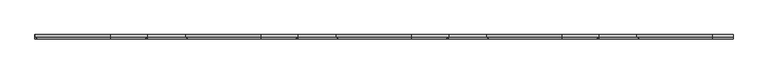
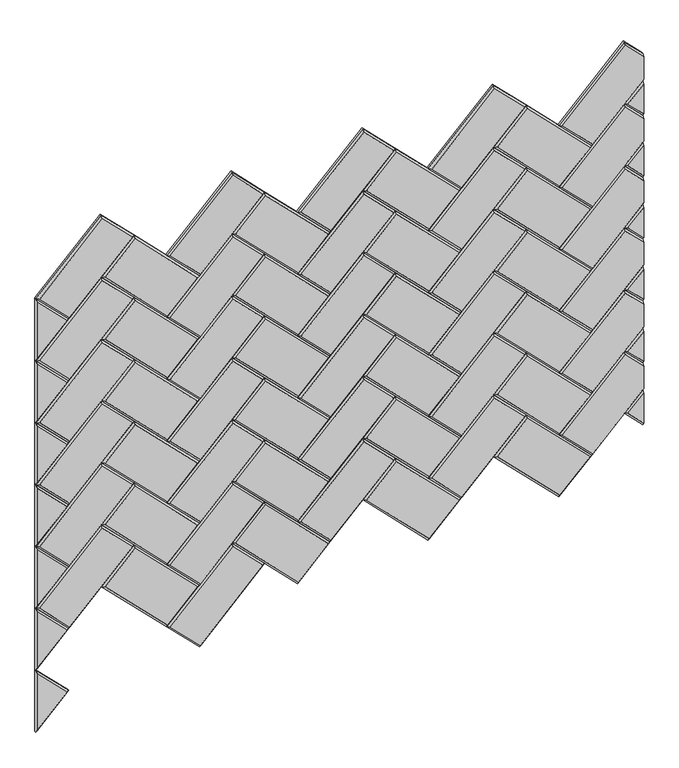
"""IFC4 building model written with IfcOpenShell, lengths in millimetres: proxy geometry, Wall_Wisteria 6.3dm."""

import ifcopenshell
import ifcopenshell.guid

model = None  # the IFC model being written
_history = None  # IfcOwnerHistory: only IFC2X3 demands one
_inside = {}  # id of a spatial element -> (the spatial element, [elements in it])
_under = {}  # id of a project, library or spatial element -> (it, [spatial elements below it])
_declared = {}  # id of a project -> (the project, [libraries it declares])
_typed = {}  # id of a type object -> (the type object, [elements of that type])
_made_of = {}  # id of a material, layer set ... -> (it, [elements and type objects made of it])


def new_model(schema):
    """Start an empty IFC model of exactly this schema.

    Asked for "IFC4X3", IfcOpenShell would pick the latest addendum, in which some entities
    have other attributes; the version numbers below select the first issue.
    IFC2X3 requires an IfcOwnerHistory on every rooted entity: one is made here for all.
    """
    global model, _history
    if schema == "IFC4X3":
        model = ifcopenshell.file(schema_version=(4, 3, 0, 0))
    else:
        model = ifcopenshell.file(schema=schema)
    _inside.clear()
    _under.clear()
    _declared.clear()
    _typed.clear()
    _made_of.clear()
    _history = None
    if model.schema == "IFC2X3":
        org = make("IfcOrganization", Name="unknown")
        user = make(
            "IfcPersonAndOrganization",
            ThePerson=make("IfcPerson", FamilyName="unknown"),
            TheOrganization=org,
        )
        app = make(
            "IfcApplication",
            ApplicationDeveloper=org,
            Version="unknown",
            ApplicationFullName="unknown",
            ApplicationIdentifier="unknown",
        )
        _history = make(
            "IfcOwnerHistory",
            OwningUser=user,
            OwningApplication=app,
            ChangeAction="ADDED",
            CreationDate=0,
        )
    return model


def make(cls, **values):
    """One entity of the class cls with the attributes given. An attribute that is None is left unset."""
    return model.create_entity(
        cls, **{name: value for name, value in values.items() if value is not None}
    )


def rooted(cls, **values):
    """An entity with a GlobalId (a new one), such as an element, a storey or a relation."""
    return make(cls, GlobalId=ifcopenshell.guid.new(), OwnerHistory=_history, **values)


def si_unit(unit_type, name, prefix=None):
    """IfcSIUnit, for example si_unit("LENGTHUNIT", "METRE", prefix="MILLI")."""
    return make("IfcSIUnit", UnitType=unit_type, Prefix=prefix, Name=name)


def assignment(units):
    """IfcUnitAssignment: the units of a project."""
    return None if units is None else make("IfcUnitAssignment", Units=units)


def point(xyz):
    """IfcCartesianPoint."""
    return None if xyz is None else make("IfcCartesianPoint", Coordinates=xyz)


def direction(xyz):
    """IfcDirection."""
    return None if xyz is None else make("IfcDirection", DirectionRatios=xyz)


def frame(location, z_axis=None, x_axis=None):
    """IfcAxis2Placement3D, a coordinate frame: its origin and axes. An axis left out is left unset."""
    return make(
        "IfcAxis2Placement3D",
        Location=point(location),
        Axis=direction(z_axis),
        RefDirection=direction(x_axis),
    )


def origin():
    """The frame at (0, 0, 0) with its axes left unset."""
    return frame((0.0, 0.0, 0.0))


def place(relative_to, where):
    """IfcLocalPlacement: puts the frame where relative to a parent placement (None: the world)."""
    return make(
        "IfcLocalPlacement", PlacementRelTo=relative_to, RelativePlacement=where
    )


def context(
    kind, dimensions, precision=None, world=None, true_north=None, identifier=None
):
    """IfcGeometricRepresentationContext, for example the 3D "Model" context."""
    return make(
        "IfcGeometricRepresentationContext",
        ContextIdentifier=identifier,
        ContextType=kind,
        CoordinateSpaceDimension=dimensions,
        Precision=precision,
        WorldCoordinateSystem=world,
        TrueNorth=true_north,
    )


def project(units=None, contexts=None):
    """IfcProject with its units and contexts."""
    return rooted(
        "IfcProject",
        Name="project",
        RepresentationContexts=contexts,
        UnitsInContext=assignment(units),
    )


def spatial(cls, under=None, at=None, **own):
    """A site, building, storey or space (cls), placed at a placement, below another one or the project."""
    s = rooted(cls, ObjectPlacement=at, **own)
    if under is not None:
        _under.setdefault(under.id(), (under, []))[1].append(s)
    return s


def faces_of(points, faces, orient=None, outer=None):
    """IfcFace entities. A face is a list of loops; a loop is a list of indices into points, from 0.

    orient and outer hold one flag for each loop. By default every Orientation is true, the
    first loop of a face is its IfcFaceOuterBound and the others are IfcFaceBound.
    """
    made = []
    for i, loops in enumerate(faces):
        bounds = []
        for j, loop in enumerate(loops):
            is_outer = j == 0 if outer is None else outer[i][j]
            bounds.append(
                make(
                    "IfcFaceOuterBound" if is_outer else "IfcFaceBound",
                    Bound=make("IfcPolyLoop", Polygon=[points[k] for k in loop]),
                    Orientation=True if orient is None else orient[i][j],
                )
            )
        made.append(make("IfcFace", Bounds=bounds))
    return made


def faceted_brep(points, faces, orient=None, outer=None, voids=None):
    """IfcFacetedBrep: a solid bounded by flat faces; with voids (closed shells), ...WithVoids."""
    shared = [point(p) for p in points]
    hull = make("IfcClosedShell", CfsFaces=faces_of(shared, faces, orient, outer))
    if voids is None:
        return make("IfcFacetedBrep", Outer=hull)
    return make(
        "IfcFacetedBrepWithVoids",
        Outer=hull,
        Voids=[
            make(cls, CfsFaces=faces_of(shared, fs, o, b)) for cls, fs, o, b in voids
        ],
    )


def shape(context_of_items, identifier, shape_type, items):
    """IfcShapeRepresentation: the items that make up one representation, for example the "Body"."""
    return make(
        "IfcShapeRepresentation",
        ContextOfItems=context_of_items,
        RepresentationIdentifier=identifier,
        RepresentationType=shape_type,
        Items=items,
    )


def source(mapping_origin, context_of_items, identifier, shape_type, items):
    """IfcRepresentationMap: a shape defined once, which mapped items show again and again."""
    return make(
        "IfcRepresentationMap",
        MappingOrigin=mapping_origin,
        MappedRepresentation=shape(context_of_items, identifier, shape_type, items),
    )


def transform(
    local_origin,
    x_axis=None,
    y_axis=None,
    z_axis=None,
    scale=None,
    scale2=None,
    scale3=None,
    uniform=True,
):
    """IfcCartesianTransformationOperator3D, or its non-uniform kind. x_axis, y_axis, z_axis: its Axis1, 2, 3."""
    if uniform:
        return make(
            "IfcCartesianTransformationOperator3D",
            Axis1=direction(x_axis),
            Axis2=direction(y_axis),
            LocalOrigin=point(local_origin),
            Scale=scale,
            Axis3=direction(z_axis),
        )
    return make(
        "IfcCartesianTransformationOperator3DnonUniform",
        Axis1=direction(x_axis),
        Axis2=direction(y_axis),
        LocalOrigin=point(local_origin),
        Scale=scale,
        Axis3=direction(z_axis),
        Scale2=scale2,
        Scale3=scale3,
    )


def mapped(mapping_source, mapping_target):
    """IfcMappedItem: shows the shape of a source again, moved by a transform."""
    return make(
        "IfcMappedItem", MappingSource=mapping_source, MappingTarget=mapping_target
    )


def made_of(thing, what):
    """Note that an element or type object is made of a material, layer set ...; save() writes the relation."""
    if what is not None:
        _made_of.setdefault(what.id(), (what, []))[1].append(thing)
    return thing


def element(
    cls,
    number,
    at=None,
    inside=None,
    cuts=None,
    type_object=None,
    material=None,
    context=None,
    identifier="Body",
    shape_type=None,
    held_by="IfcProductDefinitionShape",
    body=None,
    shapes=None,
    **own,
):
    """One element of the class cls, such as IfcWall. Its Tag is "e" and its number.

    at: its placement. inside: the storey or other place that contains it. cuts: it is an
    opening in that element (IfcRelVoidsElement). A single representation is given by context,
    identifier, shape_type and body (its items); several are given by shapes. held_by: the class
    of the entity that holds the representations. save() writes the other relations.
    """
    e = rooted(cls, Tag="e%d" % number, ObjectPlacement=at, **own)
    if body is not None:
        shapes = [shape(context, identifier, shape_type, body)]
    if shapes is not None:
        e.Representation = make(held_by, Representations=shapes)
    if inside is not None:
        _inside.setdefault(inside.id(), (inside, []))[1].append(e)
    if cuts is not None:
        rooted(
            "IfcRelVoidsElement", RelatingBuildingElement=cuts, RelatedOpeningElement=e
        )
    if type_object is not None:
        _typed.setdefault(type_object.id(), (type_object, []))[1].append(e)
    return made_of(e, material)


def aggregate(whole, parts):
    """IfcRelAggregates: a whole, such as a stair, and the parts it consists of."""
    return rooted("IfcRelAggregates", RelatingObject=whole, RelatedObjects=parts)


def save(model, path):
    """Write the relations noted so far, then the file.

    IfcRelAggregates (storeys below a building ...), IfcRelContainedInSpatialStructure (elements
    in a storey), IfcRelDefinesByType, IfcRelAssociatesMaterial and IfcRelDeclares: one each for
    every whole, place, type object, material and project.
    """
    for whole, parts in _under.values():
        aggregate(whole, parts)
    for where, things in _inside.values():
        rooted(
            "IfcRelContainedInSpatialStructure",
            RelatedElements=things,
            RelatingStructure=where,
        )
    for kind, things in _typed.values():
        rooted("IfcRelDefinesByType", RelatedObjects=things, RelatingType=kind)
    for what, things in _made_of.values():
        rooted("IfcRelAssociatesMaterial", RelatedObjects=things, RelatingMaterial=what)
    for by, libraries in _declared.values():
        rooted("IfcRelDeclares", RelatingContext=by, RelatedDefinitions=libraries)
    model.write(path)


def generic_models_5b903db9(model_context):
    return source(origin(), model_context, "Body", "Brep", [
        faceted_brep([(7516.5511183, 12.0, 1287.5409819), (7301.0249714, 12.0, 1072.014835), (7193.261898, 12.0, 1179.7779084), (7408.7880449, 12.0, 1395.3040553), (7516.5511183, 6.0, 1287.5409819), (7408.7880449, 6.0, 1395.3040553), (7193.261898, 6.0, 1179.7779084), (7301.0249714, 6.0, 1072.014835), (7201.7471794, 0.0, 1179.7779084), (7301.0249714, 0.0, 1080.5001163), (7508.065837, 0.0, 1287.5409819), (7408.7880449, 0.0, 1386.818774)], [[[0, 1, 2, 3]], [[4, 0, 3, 5]], [[5, 3, 2, 6]], [[6, 2, 1, 7]], [[7, 1, 0, 4]], [[8, 9, 10, 11]], [[4, 5, 11, 10]], [[5, 6, 8, 11]], [[6, 7, 9, 8]], [[7, 4, 10, 9]]]),
        faceted_brep([(6762.2096042, 12.0, 1179.7779084), (6869.9726776, 12.0, 1072.014835), (6762.2096042, 12.0, 964.2517615), (6762.2096042, 6.0, 964.2517615), (6869.9726776, 6.0, 1072.014835), (6762.2096042, 6.0, 1179.7779084), (6762.2096042, 0.0, 1171.2926271), (6762.2096042, 0.0, 972.7370429), (6861.4873962, 0.0, 1072.014835)], [[[0, 1, 2]], [[3, 2, 1, 4]], [[0, 5, 4, 1]], [[6, 7, 8]], [[3, 4, 8, 7]], [[5, 6, 8, 4]], [[0, 2, 3, 7, 6, 5]]]),
        faceted_brep([(8378.655706, 12.0, 1503.0671288), (8163.1295591, 12.0, 1287.5409819), (8055.3664856, 12.0, 1395.3040553), (8270.8926325, 12.0, 1610.8302022), (8378.655706, 6.0, 1503.0671288), (8270.8926325, 6.0, 1610.8302022), (8055.3664856, 6.0, 1395.3040553), (8163.1295591, 6.0, 1287.5409819), (8063.851767, 0.0, 1395.3040553), (8163.1295591, 0.0, 1296.0262633), (8370.1704246, 0.0, 1503.0671288), (8270.8926325, 0.0, 1602.3449209)], [[[0, 1, 2, 3]], [[4, 0, 3, 5]], [[5, 3, 2, 6]], [[6, 2, 1, 7]], [[7, 1, 0, 4]], [[8, 9, 10, 11]], [[4, 5, 11, 10]], [[5, 6, 8, 11]], [[6, 7, 9, 8]], [[7, 4, 10, 9]]]),
        faceted_brep([(8486.4187794, 12.0, 1395.3040553), (8270.8926325, 12.0, 1610.8302022), (8378.655706, 12.0, 1718.5932757), (8594.1818529, 12.0, 1503.0671288), (8486.4187794, 6.0, 1395.3040553), (8594.1818529, 6.0, 1503.0671288), (8378.655706, 6.0, 1718.5932757), (8270.8926325, 6.0, 1610.8302022), (8378.655706, 0.0, 1710.1079943), (8279.3779139, 0.0, 1610.8302022), (8486.4187794, 0.0, 1403.7893367), (8585.6965715, 0.0, 1503.0671288)], [[[0, 1, 2, 3]], [[4, 0, 3, 5]], [[5, 3, 2, 6]], [[6, 2, 1, 7]], [[7, 1, 0, 4]], [[8, 9, 10, 11]], [[4, 5, 11, 10]], [[5, 6, 8, 11]], [[6, 7, 9, 8]], [[7, 4, 10, 9]]]),
        faceted_brep([(8762.2096042, 12.0, 1671.0948801), (8594.1818529, 12.0, 1503.0671288), (8486.4187794, 12.0, 1610.8302022), (8701.9449263, 12.0, 1826.3563491), (8762.2096042, 12.0, 1766.0916713), (8762.2096042, 6.0, 1766.0916713), (8701.9449263, 6.0, 1826.3563491), (8486.4187794, 6.0, 1610.8302022), (8594.1818529, 6.0, 1503.0671288), (8762.2096042, 6.0, 1671.0948801), (8762.2096042, 0.0, 1679.5801615), (8762.2096042, 0.0, 1757.6063899), (8701.9449263, 0.0, 1817.8710678), (8494.9040608, 0.0, 1610.8302022), (8594.1818529, 0.0, 1511.5524102)], [[[0, 1, 2, 3, 4]], [[5, 4, 3, 6]], [[6, 3, 2, 7]], [[7, 2, 1, 8]], [[0, 9, 8, 1]], [[10, 11, 12, 13, 14]], [[11, 5, 6, 12]], [[6, 7, 13, 12]], [[7, 8, 14, 13]], [[9, 10, 14, 8]], [[0, 4, 5, 11, 10, 9]]]),
        faceted_brep([(8762.2096042, 12.0, 1886.621027), (8594.1818529, 12.0, 1718.5932757), (8486.4187794, 12.0, 1826.3563491), (8701.9449263, 12.0, 2041.882496), (8762.2096042, 12.0, 1981.6178182), (8762.2096042, 6.0, 1981.6178182), (8701.9449263, 6.0, 2041.882496), (8486.4187794, 6.0, 1826.3563491), (8594.1818529, 6.0, 1718.5932757), (8762.2096042, 6.0, 1886.621027), (8762.2096042, 0.0, 1895.1063084), (8762.2096042, 0.0, 1973.1325368), (8701.9449263, 0.0, 2033.3972147), (8494.9040608, 0.0, 1826.3563491), (8594.1818529, 0.0, 1727.0785571)], [[[0, 1, 2, 3, 4]], [[5, 4, 3, 6]], [[6, 3, 2, 7]], [[7, 2, 1, 8]], [[0, 9, 8, 1]], [[10, 11, 12, 13, 14]], [[11, 5, 6, 12]], [[6, 7, 13, 12]], [[7, 8, 14, 13]], [[9, 10, 14, 8]], [[0, 4, 5, 11, 10, 9]]]),
        faceted_brep([(8486.4187794, 12.0, 1179.7779084), (8270.8926325, 12.0, 1395.3040553), (8378.655706, 12.0, 1503.0671288), (8594.1818529, 12.0, 1287.5409819), (8486.4187794, 6.0, 1179.7779084), (8594.1818529, 6.0, 1287.5409819), (8378.655706, 6.0, 1503.0671288), (8270.8926325, 6.0, 1395.3040553), (8378.655706, 0.0, 1494.5818474), (8279.3779139, 0.0, 1395.3040553), (8486.4187794, 0.0, 1188.2631898), (8585.6965715, 0.0, 1287.5409819)], [[[0, 1, 2, 3]], [[4, 0, 3, 5]], [[5, 3, 2, 6]], [[6, 2, 1, 7]], [[7, 1, 0, 4]], [[8, 9, 10, 11]], [[4, 5, 11, 10]], [[5, 6, 8, 11]], [[6, 7, 9, 8]], [[7, 4, 10, 9]]]),
        faceted_brep([(8762.2096042, 12.0, 1335.0393775), (8701.9449263, 12.0, 1395.3040553), (8762.2096042, 12.0, 1455.5687332), (8762.2096042, 6.0, 1455.5687332), (8701.9449263, 6.0, 1395.3040553), (8762.2096042, 6.0, 1335.0393775), (8762.2096042, 0.0, 1343.5246589), (8762.2096042, 0.0, 1447.0834518), (8710.4302077, 0.0, 1395.3040553)], [[[0, 1, 2]], [[3, 2, 1, 4]], [[0, 5, 4, 1]], [[6, 7, 8]], [[7, 3, 4, 8]], [[5, 6, 8, 4]], [[0, 2, 3, 7, 6, 5]]]),
        faceted_brep([(8762.2096042, 12.0, 1455.5687332), (8594.1818529, 12.0, 1287.5409819), (8486.4187794, 12.0, 1395.3040553), (8701.9449263, 12.0, 1610.8302022), (8762.2096042, 12.0, 1550.5655244), (8762.2096042, 6.0, 1550.5655244), (8701.9449263, 6.0, 1610.8302022), (8486.4187794, 6.0, 1395.3040553), (8594.1818529, 6.0, 1287.5409819), (8762.2096042, 6.0, 1455.5687332), (8762.2096042, 0.0, 1464.0540146), (8762.2096042, 0.0, 1542.080243), (8701.9449263, 0.0, 1602.3449209), (8494.9040608, 0.0, 1395.3040553), (8594.1818529, 0.0, 1296.0262633)], [[[0, 1, 2, 3, 4]], [[5, 4, 3, 6]], [[6, 3, 2, 7]], [[7, 2, 1, 8]], [[0, 9, 8, 1]], [[10, 11, 12, 13, 14]], [[11, 5, 6, 12]], [[6, 7, 13, 12]], [[7, 8, 14, 13]], [[9, 10, 14, 8]], [[0, 4, 5, 11, 10, 9]]]),
        faceted_brep([(8762.2096042, 12.0, 1550.5655244), (8701.9449263, 12.0, 1610.8302022), (8762.2096042, 12.0, 1671.0948801), (8762.2096042, 6.0, 1671.0948801), (8701.9449263, 6.0, 1610.8302022), (8762.2096042, 6.0, 1550.5655244), (8762.2096042, 0.0, 1559.0508058), (8762.2096042, 0.0, 1662.6095987), (8710.4302077, 0.0, 1610.8302022)], [[[0, 1, 2]], [[3, 2, 1, 4]], [[0, 5, 4, 1]], [[6, 7, 8]], [[7, 3, 4, 8]], [[5, 6, 8, 4]], [[0, 2, 3, 7, 6, 5]]]),
        faceted_brep([(8762.2096042, 12.0, 1766.0916713), (8701.9449263, 12.0, 1826.3563491), (8762.2096042, 12.0, 1886.621027), (8762.2096042, 6.0, 1886.621027), (8701.9449263, 6.0, 1826.3563491), (8762.2096042, 6.0, 1766.0916713), (8762.2096042, 0.0, 1774.5769527), (8762.2096042, 0.0, 1878.1357456), (8710.4302077, 0.0, 1826.3563491)], [[[0, 1, 2]], [[3, 2, 1, 4]], [[0, 5, 4, 1]], [[6, 7, 8]], [[7, 3, 4, 8]], [[5, 6, 8, 4]], [[0, 2, 3, 7, 6, 5]]]),
        faceted_brep([(7624.3141918, 12.0, 1179.7779084), (7408.7880449, 12.0, 1395.3040553), (7516.5511183, 12.0, 1503.0671288), (7732.0772652, 12.0, 1287.5409819), (7624.3141918, 6.0, 1179.7779084), (7732.0772652, 6.0, 1287.5409819), (7516.5511183, 6.0, 1503.0671288), (7408.7880449, 6.0, 1395.3040553), (7516.5511183, 0.0, 1494.5818474), (7417.2733263, 0.0, 1395.3040553), (7624.3141918, 0.0, 1188.2631898), (7723.5919839, 0.0, 1287.5409819)], [[[0, 1, 2, 3]], [[4, 0, 3, 5]], [[5, 3, 2, 6]], [[6, 2, 1, 7]], [[7, 1, 0, 4]], [[8, 9, 10, 11]], [[4, 5, 11, 10]], [[5, 6, 8, 11]], [[6, 7, 9, 8]], [[7, 4, 10, 9]]]),
        faceted_brep([(7516.5511183, 12.0, 1503.0671288), (7301.0249714, 12.0, 1287.5409819), (7193.261898, 12.0, 1395.3040553), (7408.7880449, 12.0, 1610.8302022), (7516.5511183, 6.0, 1503.0671288), (7408.7880449, 6.0, 1610.8302022), (7193.261898, 6.0, 1395.3040553), (7301.0249714, 6.0, 1287.5409819), (7201.7471794, 0.0, 1395.3040553), (7301.0249714, 0.0, 1296.0262633), (7508.065837, 0.0, 1503.0671288), (7408.7880449, 0.0, 1602.3449209)], [[[0, 1, 2, 3]], [[4, 0, 3, 5]], [[5, 3, 2, 6]], [[6, 2, 1, 7]], [[7, 1, 0, 4]], [[8, 9, 10, 11]], [[4, 5, 11, 10]], [[5, 6, 8, 11]], [[6, 7, 9, 8]], [[7, 4, 10, 9]]]),
        faceted_brep([(8055.3664856, 12.0, 1179.7779084), (7839.8403387, 12.0, 1395.3040553), (7947.6034122, 12.0, 1503.0671288), (8163.1295591, 12.0, 1287.5409819), (8055.3664856, 6.0, 1179.7779084), (8163.1295591, 6.0, 1287.5409819), (7947.6034122, 6.0, 1503.0671288), (7839.8403387, 6.0, 1395.3040553), (7947.6034122, 0.0, 1494.5818474), (7848.3256201, 0.0, 1395.3040553), (8055.3664856, 0.0, 1188.2631898), (8154.6442777, 0.0, 1287.5409819)], [[[0, 1, 2, 3]], [[4, 0, 3, 5]], [[5, 3, 2, 6]], [[6, 2, 1, 7]], [[7, 1, 0, 4]], [[8, 9, 10, 11]], [[4, 5, 11, 10]], [[5, 6, 8, 11]], [[6, 7, 9, 8]], [[7, 4, 10, 9]]]),
        faceted_brep([(7947.6034122, 12.0, 1503.0671288), (7732.0772652, 12.0, 1287.5409819), (7624.3141918, 12.0, 1395.3040553), (7839.8403387, 12.0, 1610.8302022), (7947.6034122, 6.0, 1503.0671288), (7839.8403387, 6.0, 1610.8302022), (7624.3141918, 6.0, 1395.3040553), (7732.0772652, 6.0, 1287.5409819), (7632.7994732, 0.0, 1395.3040553), (7732.0772652, 0.0, 1296.0262633), (7939.1181308, 0.0, 1503.0671288), (7839.8403387, 0.0, 1602.3449209)], [[[0, 1, 2, 3]], [[4, 0, 3, 5]], [[5, 3, 2, 6]], [[6, 2, 1, 7]], [[7, 1, 0, 4]], [[8, 9, 10, 11]], [[4, 5, 11, 10]], [[5, 6, 8, 11]], [[6, 7, 9, 8]], [[7, 4, 10, 9]]]),
        faceted_brep([(7624.3141918, 12.0, 1395.3040553), (7408.7880449, 12.0, 1610.8302022), (7516.5511183, 12.0, 1718.5932757), (7732.0772652, 12.0, 1503.0671288), (7624.3141918, 6.0, 1395.3040553), (7732.0772652, 6.0, 1503.0671288), (7516.5511183, 6.0, 1718.5932757), (7408.7880449, 6.0, 1610.8302022), (7516.5511183, 0.0, 1710.1079943), (7417.2733263, 0.0, 1610.8302022), (7624.3141918, 0.0, 1403.7893367), (7723.5919839, 0.0, 1503.0671288)], [[[0, 1, 2, 3]], [[4, 0, 3, 5]], [[5, 3, 2, 6]], [[6, 2, 1, 7]], [[7, 1, 0, 4]], [[8, 9, 10, 11]], [[4, 5, 11, 10]], [[5, 6, 8, 11]], [[6, 7, 9, 8]], [[7, 4, 10, 9]]]),
        faceted_brep([(8055.3664856, 12.0, 1395.3040553), (7839.8403387, 12.0, 1610.8302022), (7947.6034122, 12.0, 1718.5932757), (8163.1295591, 12.0, 1503.0671288), (8055.3664856, 6.0, 1395.3040553), (8163.1295591, 6.0, 1503.0671288), (7947.6034122, 6.0, 1718.5932757), (7839.8403387, 6.0, 1610.8302022), (7947.6034122, 0.0, 1710.1079943), (7848.3256201, 0.0, 1610.8302022), (8055.3664856, 0.0, 1403.7893367), (8154.6442777, 0.0, 1503.0671288)], [[[0, 1, 2, 3]], [[4, 0, 3, 5]], [[5, 3, 2, 6]], [[6, 2, 1, 7]], [[7, 1, 0, 4]], [[8, 9, 10, 11]], [[4, 5, 11, 10]], [[5, 6, 8, 11]], [[6, 7, 9, 8]], [[7, 4, 10, 9]]]),
        faceted_brep([(7947.6034122, 12.0, 1718.5932757), (7732.0772652, 12.0, 1503.0671288), (7624.3141918, 12.0, 1610.8302022), (7839.8403387, 12.0, 1826.3563491), (7947.6034122, 6.0, 1718.5932757), (7839.8403387, 6.0, 1826.3563491), (7624.3141918, 6.0, 1610.8302022), (7732.0772652, 6.0, 1503.0671288), (7632.7994732, 0.0, 1610.8302022), (7732.0772652, 0.0, 1511.5524102), (7939.1181308, 0.0, 1718.5932757), (7839.8403387, 0.0, 1817.8710678)], [[[0, 1, 2, 3]], [[4, 0, 3, 5]], [[5, 3, 2, 6]], [[6, 2, 1, 7]], [[7, 1, 0, 4]], [[8, 9, 10, 11]], [[4, 5, 11, 10]], [[5, 6, 8, 11]], [[6, 7, 9, 8]], [[7, 4, 10, 9]]]),
        faceted_brep([(7947.6034122, 12.0, 1934.1194226), (7732.0772652, 12.0, 1718.5932757), (7624.3141918, 12.0, 1826.3563491), (7839.8403387, 12.0, 2041.882496), (7947.6034122, 6.0, 1934.1194226), (7839.8403387, 6.0, 2041.882496), (7624.3141918, 6.0, 1826.3563491), (7732.0772652, 6.0, 1718.5932757), (7632.7994732, 0.0, 1826.3563491), (7732.0772652, 0.0, 1727.0785571), (7939.1181308, 0.0, 1934.1194226), (7839.8403387, 0.0, 2033.3972147)], [[[0, 1, 2, 3]], [[4, 0, 3, 5]], [[5, 3, 2, 6]], [[6, 2, 1, 7]], [[7, 1, 0, 4]], [[8, 9, 10, 11]], [[4, 5, 11, 10]], [[5, 6, 8, 11]], [[6, 7, 9, 8]], [[7, 4, 10, 9]]]),
        faceted_brep([(8378.655706, 12.0, 1718.5932757), (8163.1295591, 12.0, 1503.0671288), (8055.3664856, 12.0, 1610.8302022), (8270.8926325, 12.0, 1826.3563491), (8378.655706, 6.0, 1718.5932757), (8270.8926325, 6.0, 1826.3563491), (8055.3664856, 6.0, 1610.8302022), (8163.1295591, 6.0, 1503.0671288), (8063.851767, 0.0, 1610.8302022), (8163.1295591, 0.0, 1511.5524102), (8370.1704246, 0.0, 1718.5932757), (8270.8926325, 0.0, 1817.8710678)], [[[0, 1, 2, 3]], [[4, 0, 3, 5]], [[5, 3, 2, 6]], [[6, 2, 1, 7]], [[7, 1, 0, 4]], [[8, 9, 10, 11]], [[4, 5, 11, 10]], [[5, 6, 8, 11]], [[6, 7, 9, 8]], [[7, 4, 10, 9]]]),
        faceted_brep([(8055.3664856, 12.0, 1610.8302022), (7839.8403387, 12.0, 1826.3563491), (7947.6034122, 12.0, 1934.1194226), (8163.1295591, 12.0, 1718.5932757), (8055.3664856, 6.0, 1610.8302022), (8163.1295591, 6.0, 1718.5932757), (7947.6034122, 6.0, 1934.1194226), (7839.8403387, 6.0, 1826.3563491), (7947.6034122, 0.0, 1925.6341412), (7848.3256201, 0.0, 1826.3563491), (8055.3664856, 0.0, 1619.3154836), (8154.6442777, 0.0, 1718.5932757)], [[[0, 1, 2, 3]], [[4, 0, 3, 5]], [[5, 3, 2, 6]], [[6, 2, 1, 7]], [[7, 1, 0, 4]], [[8, 9, 10, 11]], [[4, 5, 11, 10]], [[5, 6, 8, 11]], [[6, 7, 9, 8]], [[7, 4, 10, 9]]]),
        faceted_brep([(8486.4187794, 12.0, 1610.8302022), (8270.8926325, 12.0, 1826.3563491), (8378.655706, 12.0, 1934.1194226), (8594.1818529, 12.0, 1718.5932757), (8486.4187794, 6.0, 1610.8302022), (8594.1818529, 6.0, 1718.5932757), (8378.655706, 6.0, 1934.1194226), (8270.8926325, 6.0, 1826.3563491), (8378.655706, 0.0, 1925.6341412), (8279.3779139, 0.0, 1826.3563491), (8486.4187794, 0.0, 1619.3154836), (8585.6965715, 0.0, 1718.5932757)], [[[0, 1, 2, 3]], [[4, 0, 3, 5]], [[5, 3, 2, 6]], [[6, 2, 1, 7]], [[7, 1, 0, 4]], [[8, 9, 10, 11]], [[4, 5, 11, 10]], [[5, 6, 8, 11]], [[6, 7, 9, 8]], [[7, 4, 10, 9]]]),
        faceted_brep([(8378.655706, 12.0, 1934.1194226), (8163.1295591, 12.0, 1718.5932757), (8055.3664856, 12.0, 1826.3563491), (8270.8926325, 12.0, 2041.882496), (8378.655706, 6.0, 1934.1194226), (8270.8926325, 6.0, 2041.882496), (8055.3664856, 6.0, 1826.3563491), (8163.1295591, 6.0, 1718.5932757), (8063.851767, 0.0, 1826.3563491), (8163.1295591, 0.0, 1727.0785571), (8370.1704246, 0.0, 1934.1194226), (8270.8926325, 0.0, 2033.3972147)], [[[0, 1, 2, 3]], [[4, 0, 3, 5]], [[5, 3, 2, 6]], [[6, 2, 1, 7]], [[7, 1, 0, 4]], [[8, 9, 10, 11]], [[4, 5, 11, 10]], [[5, 6, 8, 11]], [[6, 7, 9, 8]], [[7, 4, 10, 9]]]),
        faceted_brep([(7193.261898, 12.0, 1395.3040553), (6977.7357511, 12.0, 1610.8302022), (7085.4988245, 12.0, 1718.5932757), (7301.0249714, 12.0, 1503.0671288), (7193.261898, 6.0, 1395.3040553), (7301.0249714, 6.0, 1503.0671288), (7085.4988245, 6.0, 1718.5932757), (6977.7357511, 6.0, 1610.8302022), (7085.4988245, 0.0, 1710.1079943), (6986.2210324, 0.0, 1610.8302022), (7193.261898, 0.0, 1403.7893367), (7292.5396901, 0.0, 1503.0671288)], [[[0, 1, 2, 3]], [[4, 0, 3, 5]], [[5, 3, 2, 6]], [[6, 2, 1, 7]], [[7, 1, 0, 4]], [[8, 9, 10, 11]], [[4, 5, 11, 10]], [[5, 6, 8, 11]], [[6, 7, 9, 8]], [[7, 4, 10, 9]]]),
        faceted_brep([(7085.4988245, 12.0, 1718.5932757), (6869.9726776, 12.0, 1503.0671288), (6762.2096042, 12.0, 1610.8302022), (6977.7357511, 12.0, 1826.3563491), (7085.4988245, 6.0, 1718.5932757), (6977.7357511, 6.0, 1826.3563491), (6762.2096042, 6.0, 1610.8302022), (6869.9726776, 6.0, 1503.0671288), (6770.6948855, 0.0, 1610.8302022), (6869.9726776, 0.0, 1511.5524102), (7077.0135432, 0.0, 1718.5932757), (6977.7357511, 0.0, 1817.8710678)], [[[0, 1, 2, 3]], [[4, 0, 3, 5]], [[5, 3, 2, 6]], [[6, 2, 1, 7]], [[7, 1, 0, 4]], [[8, 9, 10, 11]], [[4, 5, 11, 10]], [[5, 6, 8, 11]], [[6, 7, 9, 8]], [[7, 4, 10, 9]]]),
        faceted_brep([(7516.5511183, 12.0, 1718.5932757), (7301.0249714, 12.0, 1503.0671288), (7193.261898, 12.0, 1610.8302022), (7408.7880449, 12.0, 1826.3563491), (7516.5511183, 6.0, 1718.5932757), (7408.7880449, 6.0, 1826.3563491), (7193.261898, 6.0, 1610.8302022), (7301.0249714, 6.0, 1503.0671288), (7201.7471794, 0.0, 1610.8302022), (7301.0249714, 0.0, 1511.5524102), (7508.065837, 0.0, 1718.5932757), (7408.7880449, 0.0, 1817.8710678)], [[[0, 1, 2, 3]], [[4, 0, 3, 5]], [[5, 3, 2, 6]], [[6, 2, 1, 7]], [[7, 1, 0, 4]], [[8, 9, 10, 11]], [[4, 5, 11, 10]], [[5, 6, 8, 11]], [[6, 7, 9, 8]], [[7, 4, 10, 9]]]),
        faceted_brep([(7193.261898, 12.0, 1610.8302022), (6977.7357511, 12.0, 1826.3563491), (7085.4988245, 12.0, 1934.1194226), (7301.0249714, 12.0, 1718.5932757), (7193.261898, 6.0, 1610.8302022), (7301.0249714, 6.0, 1718.5932757), (7085.4988245, 6.0, 1934.1194226), (6977.7357511, 6.0, 1826.3563491), (7085.4988245, 0.0, 1925.6341412), (6986.2210324, 0.0, 1826.3563491), (7193.261898, 0.0, 1619.3154836), (7292.5396901, 0.0, 1718.5932757)], [[[0, 1, 2, 3]], [[4, 0, 3, 5]], [[5, 3, 2, 6]], [[6, 2, 1, 7]], [[7, 1, 0, 4]], [[8, 9, 10, 11]], [[4, 5, 11, 10]], [[5, 6, 8, 11]], [[6, 7, 9, 8]], [[7, 4, 10, 9]]]),
        faceted_brep([(7085.4988245, 12.0, 1934.1194226), (6869.9726776, 12.0, 1718.5932757), (6762.2096042, 12.0, 1826.3563491), (6977.7357511, 12.0, 2041.882496), (7085.4988245, 6.0, 1934.1194226), (6977.7357511, 6.0, 2041.882496), (6762.2096042, 6.0, 1826.3563491), (6869.9726776, 6.0, 1718.5932757), (6770.6948855, 0.0, 1826.3563491), (6869.9726776, 0.0, 1727.0785571), (7077.0135432, 0.0, 1934.1194226), (6977.7357511, 0.0, 2033.3972147)], [[[0, 1, 2, 3]], [[4, 0, 3, 5]], [[5, 3, 2, 6]], [[6, 2, 1, 7]], [[7, 1, 0, 4]], [[8, 9, 10, 11]], [[4, 5, 11, 10]], [[5, 6, 8, 11]], [[6, 7, 9, 8]], [[7, 4, 10, 9]]]),
        faceted_brep([(6762.2096042, 12.0, 1395.3040553), (6869.9726776, 12.0, 1287.5409819), (6762.2096042, 12.0, 1179.7779084), (6762.2096042, 6.0, 1179.7779084), (6869.9726776, 6.0, 1287.5409819), (6762.2096042, 6.0, 1395.3040553), (6762.2096042, 0.0, 1386.818774), (6762.2096042, 0.0, 1188.2631898), (6861.4873962, 0.0, 1287.5409819)], [[[0, 1, 2]], [[3, 2, 1, 4]], [[0, 5, 4, 1]], [[6, 7, 8]], [[3, 4, 8, 7]], [[5, 6, 8, 4]], [[0, 2, 3, 7, 6, 5]]]),
        faceted_brep([(7193.261898, 12.0, 1179.7779084), (6977.7357511, 12.0, 1395.3040553), (7085.4988245, 12.0, 1503.0671288), (7301.0249714, 12.0, 1287.5409819), (7193.261898, 6.0, 1179.7779084), (7301.0249714, 6.0, 1287.5409819), (7085.4988245, 6.0, 1503.0671288), (6977.7357511, 6.0, 1395.3040553), (7085.4988245, 0.0, 1494.5818474), (6986.2210324, 0.0, 1395.3040553), (7193.261898, 0.0, 1188.2631898), (7292.5396901, 0.0, 1287.5409819)], [[[0, 1, 2, 3]], [[4, 0, 3, 5]], [[5, 3, 2, 6]], [[6, 2, 1, 7]], [[7, 1, 0, 4]], [[8, 9, 10, 11]], [[4, 5, 11, 10]], [[5, 6, 8, 11]], [[6, 7, 9, 8]], [[7, 4, 10, 9]]]),
        faceted_brep([(7085.4988245, 12.0, 1503.0671288), (6869.9726776, 12.0, 1287.5409819), (6762.2096042, 12.0, 1395.3040553), (6977.7357511, 12.0, 1610.8302022), (7085.4988245, 6.0, 1503.0671288), (6977.7357511, 6.0, 1610.8302022), (6762.2096042, 6.0, 1395.3040553), (6869.9726776, 6.0, 1287.5409819), (6770.6948855, 0.0, 1395.3040553), (6869.9726776, 0.0, 1296.0262633), (7077.0135432, 0.0, 1503.0671288), (6977.7357511, 0.0, 1602.3449209)], [[[0, 1, 2, 3]], [[4, 0, 3, 5]], [[5, 3, 2, 6]], [[6, 2, 1, 7]], [[7, 1, 0, 4]], [[8, 9, 10, 11]], [[4, 5, 11, 10]], [[5, 6, 8, 11]], [[6, 7, 9, 8]], [[7, 4, 10, 9]]]),
        faceted_brep([(6762.2096042, 12.0, 1610.8302022), (6869.9726776, 12.0, 1503.0671288), (6762.2096042, 12.0, 1395.3040553), (6762.2096042, 6.0, 1395.3040553), (6869.9726776, 6.0, 1503.0671288), (6762.2096042, 6.0, 1610.8302022), (6762.2096042, 0.0, 1602.3449209), (6762.2096042, 0.0, 1403.7893367), (6861.4873962, 0.0, 1503.0671288)], [[[0, 1, 2]], [[3, 2, 1, 4]], [[0, 5, 4, 1]], [[6, 7, 8]], [[3, 4, 8, 7]], [[5, 6, 8, 4]], [[0, 2, 3, 7, 6, 5]]]),
        faceted_brep([(7624.3141918, 12.0, 1610.8302022), (7408.7880449, 12.0, 1826.3563491), (7516.5511183, 12.0, 1934.1194226), (7732.0772652, 12.0, 1718.5932757), (7624.3141918, 6.0, 1610.8302022), (7732.0772652, 6.0, 1718.5932757), (7516.5511183, 6.0, 1934.1194226), (7408.7880449, 6.0, 1826.3563491), (7516.5511183, 0.0, 1925.6341412), (7417.2733263, 0.0, 1826.3563491), (7624.3141918, 0.0, 1619.3154836), (7723.5919839, 0.0, 1718.5932757)], [[[0, 1, 2, 3]], [[4, 0, 3, 5]], [[5, 3, 2, 6]], [[6, 2, 1, 7]], [[7, 1, 0, 4]], [[8, 9, 10, 11]], [[4, 5, 11, 10]], [[5, 6, 8, 11]], [[6, 7, 9, 8]], [[7, 4, 10, 9]]]),
        faceted_brep([(7516.5511183, 12.0, 1934.1194226), (7301.0249714, 12.0, 1718.5932757), (7193.261898, 12.0, 1826.3563491), (7408.7880449, 12.0, 2041.882496), (7516.5511183, 6.0, 1934.1194226), (7408.7880449, 6.0, 2041.882496), (7193.261898, 6.0, 1826.3563491), (7301.0249714, 6.0, 1718.5932757), (7201.7471794, 0.0, 1826.3563491), (7301.0249714, 0.0, 1727.0785571), (7508.065837, 0.0, 1934.1194226), (7408.7880449, 0.0, 2033.3972147)], [[[0, 1, 2, 3]], [[4, 0, 3, 5]], [[5, 3, 2, 6]], [[6, 2, 1, 7]], [[7, 1, 0, 4]], [[8, 9, 10, 11]], [[4, 5, 11, 10]], [[5, 6, 8, 11]], [[6, 7, 9, 8]], [[7, 4, 10, 9]]]),
        faceted_brep([(6762.2096042, 12.0, 1826.3563491), (6869.9726776, 12.0, 1718.5932757), (6762.2096042, 12.0, 1610.8302022), (6762.2096042, 6.0, 1610.8302022), (6869.9726776, 6.0, 1718.5932757), (6762.2096042, 6.0, 1826.3563491), (6762.2096042, 0.0, 1817.8710678), (6762.2096042, 0.0, 1619.3154836), (6861.4873962, 0.0, 1718.5932757)], [[[0, 1, 2]], [[3, 2, 1, 4]], [[0, 5, 4, 1]], [[6, 7, 8]], [[3, 4, 8, 7]], [[5, 6, 8, 4]], [[0, 2, 3, 7, 6, 5]]]),
        faceted_brep([(8378.655706, 12.0, 2149.6455695), (8163.1295591, 12.0, 1934.1194226), (8055.3664856, 12.0, 2041.882496), (8270.8926325, 12.0, 2257.408643), (8378.655706, 6.0, 2149.6455695), (8270.8926325, 6.0, 2257.408643), (8055.3664856, 6.0, 2041.882496), (8163.1295591, 6.0, 1934.1194226), (8063.851767, 0.0, 2041.882496), (8163.1295591, 0.0, 1942.604704), (8370.1704246, 0.0, 2149.6455695), (8270.8926325, 0.0, 2248.9233616)], [[[0, 1, 2, 3]], [[4, 0, 3, 5]], [[5, 3, 2, 6]], [[6, 2, 1, 7]], [[7, 1, 0, 4]], [[8, 9, 10, 11]], [[4, 5, 11, 10]], [[5, 6, 8, 11]], [[6, 7, 9, 8]], [[7, 4, 10, 9]]]),
        faceted_brep([(8486.4187794, 12.0, 2041.882496), (8270.8926325, 12.0, 2257.408643), (8378.655706, 12.0, 2365.1717164), (8594.1818529, 12.0, 2149.6455695), (8486.4187794, 6.0, 2041.882496), (8594.1818529, 6.0, 2149.6455695), (8378.655706, 6.0, 2365.1717164), (8270.8926325, 6.0, 2257.408643), (8378.655706, 0.0, 2356.686435), (8279.3779139, 0.0, 2257.408643), (8486.4187794, 0.0, 2050.3677774), (8585.6965715, 0.0, 2149.6455695)], [[[0, 1, 2, 3]], [[4, 0, 3, 5]], [[5, 3, 2, 6]], [[6, 2, 1, 7]], [[7, 1, 0, 4]], [[8, 9, 10, 11]], [[4, 5, 11, 10]], [[5, 6, 8, 11]], [[6, 7, 9, 8]], [[7, 4, 10, 9]]]),
        faceted_brep([(8762.2096042, 12.0, 2317.6733208), (8594.1818529, 12.0, 2149.6455695), (8486.4187794, 12.0, 2257.408643), (8701.9449263, 12.0, 2472.9347899), (8762.2096042, 12.0, 2412.670112), (8762.2096042, 6.0, 2412.670112), (8701.9449263, 6.0, 2472.9347899), (8486.4187794, 6.0, 2257.408643), (8594.1818529, 6.0, 2149.6455695), (8762.2096042, 6.0, 2317.6733208), (8762.2096042, 0.0, 2326.1586022), (8762.2096042, 0.0, 2404.1848306), (8701.9449263, 0.0, 2464.4495085), (8494.9040608, 0.0, 2257.408643), (8594.1818529, 0.0, 2158.1308509)], [[[0, 1, 2, 3, 4]], [[5, 4, 3, 6]], [[6, 3, 2, 7]], [[7, 2, 1, 8]], [[0, 9, 8, 1]], [[10, 11, 12, 13, 14]], [[11, 5, 6, 12]], [[6, 7, 13, 12]], [[7, 8, 14, 13]], [[9, 10, 14, 8]], [[0, 4, 5, 11, 10, 9]]]),
        faceted_brep([(8762.2096042, 12.0, 2533.1994677), (8594.1818529, 12.0, 2365.1717164), (8486.4187794, 12.0, 2472.9347899), (8701.9449263, 12.0, 2688.4609368), (8762.2096042, 12.0, 2628.1962589), (8762.2096042, 6.0, 2628.1962589), (8701.9449263, 6.0, 2688.4609368), (8486.4187794, 6.0, 2472.9347899), (8594.1818529, 6.0, 2365.1717164), (8762.2096042, 6.0, 2533.1994677), (8762.2096042, 0.0, 2541.6847491), (8762.2096042, 0.0, 2619.7109775), (8701.9449263, 0.0, 2679.9756554), (8494.9040608, 0.0, 2472.9347899), (8594.1818529, 0.0, 2373.6569978)], [[[0, 1, 2, 3, 4]], [[5, 4, 3, 6]], [[6, 3, 2, 7]], [[7, 2, 1, 8]], [[0, 9, 8, 1]], [[10, 11, 12, 13, 14]], [[11, 5, 6, 12]], [[6, 7, 13, 12]], [[7, 8, 14, 13]], [[9, 10, 14, 8]], [[0, 4, 5, 11, 10, 9]]]),
        faceted_brep([(8486.4187794, 12.0, 1826.3563491), (8270.8926325, 12.0, 2041.882496), (8378.655706, 12.0, 2149.6455695), (8594.1818529, 12.0, 1934.1194226), (8486.4187794, 6.0, 1826.3563491), (8594.1818529, 6.0, 1934.1194226), (8378.655706, 6.0, 2149.6455695), (8270.8926325, 6.0, 2041.882496), (8378.655706, 0.0, 2141.1602881), (8279.3779139, 0.0, 2041.882496), (8486.4187794, 0.0, 1834.8416305), (8585.6965715, 0.0, 1934.1194226)], [[[0, 1, 2, 3]], [[4, 0, 3, 5]], [[5, 3, 2, 6]], [[6, 2, 1, 7]], [[7, 1, 0, 4]], [[8, 9, 10, 11]], [[4, 5, 11, 10]], [[5, 6, 8, 11]], [[6, 7, 9, 8]], [[7, 4, 10, 9]]]),
        faceted_brep([(8762.2096042, 12.0, 1981.6178182), (8701.9449263, 12.0, 2041.882496), (8762.2096042, 12.0, 2102.1471739), (8762.2096042, 6.0, 2102.1471739), (8701.9449263, 6.0, 2041.882496), (8762.2096042, 6.0, 1981.6178182), (8762.2096042, 0.0, 1990.1030996), (8762.2096042, 0.0, 2093.6618925), (8710.4302077, 0.0, 2041.882496)], [[[0, 1, 2]], [[3, 2, 1, 4]], [[0, 5, 4, 1]], [[6, 7, 8]], [[7, 3, 4, 8]], [[5, 6, 8, 4]], [[0, 2, 3, 7, 6, 5]]]),
        faceted_brep([(8762.2096042, 12.0, 2102.1471739), (8594.1818529, 12.0, 1934.1194226), (8486.4187794, 12.0, 2041.882496), (8701.9449263, 12.0, 2257.408643), (8762.2096042, 12.0, 2197.1439651), (8762.2096042, 6.0, 2197.1439651), (8701.9449263, 6.0, 2257.408643), (8486.4187794, 6.0, 2041.882496), (8594.1818529, 6.0, 1934.1194226), (8762.2096042, 6.0, 2102.1471739), (8762.2096042, 0.0, 2110.6324553), (8762.2096042, 0.0, 2188.6586837), (8701.9449263, 0.0, 2248.9233616), (8494.9040608, 0.0, 2041.882496), (8594.1818529, 0.0, 1942.604704)], [[[0, 1, 2, 3, 4]], [[5, 4, 3, 6]], [[6, 3, 2, 7]], [[7, 2, 1, 8]], [[0, 9, 8, 1]], [[10, 11, 12, 13, 14]], [[11, 5, 6, 12]], [[6, 7, 13, 12]], [[7, 8, 14, 13]], [[9, 10, 14, 8]], [[0, 4, 5, 11, 10, 9]]]),
        faceted_brep([(8762.2096042, 12.0, 2197.1439651), (8701.9449263, 12.0, 2257.408643), (8762.2096042, 12.0, 2317.6733208), (8762.2096042, 6.0, 2317.6733208), (8701.9449263, 6.0, 2257.408643), (8762.2096042, 6.0, 2197.1439651), (8762.2096042, 0.0, 2205.6292465), (8762.2096042, 0.0, 2309.1880394), (8710.4302077, 0.0, 2257.408643)], [[[0, 1, 2]], [[3, 2, 1, 4]], [[0, 5, 4, 1]], [[6, 7, 8]], [[7, 3, 4, 8]], [[5, 6, 8, 4]], [[0, 2, 3, 7, 6, 5]]]),
        faceted_brep([(8762.2096042, 12.0, 2412.670112), (8701.9449263, 12.0, 2472.9347899), (8762.2096042, 12.0, 2533.1994677), (8762.2096042, 6.0, 2533.1994677), (8701.9449263, 6.0, 2472.9347899), (8762.2096042, 6.0, 2412.670112), (8762.2096042, 0.0, 2421.1553934), (8762.2096042, 0.0, 2524.7141863), (8710.4302077, 0.0, 2472.9347899)], [[[0, 1, 2]], [[3, 2, 1, 4]], [[0, 5, 4, 1]], [[6, 7, 8]], [[7, 3, 4, 8]], [[5, 6, 8, 4]], [[0, 2, 3, 7, 6, 5]]]),
        faceted_brep([(7624.3141918, 12.0, 1826.3563491), (7408.7880449, 12.0, 2041.882496), (7516.5511183, 12.0, 2149.6455695), (7732.0772652, 12.0, 1934.1194226), (7624.3141918, 6.0, 1826.3563491), (7732.0772652, 6.0, 1934.1194226), (7516.5511183, 6.0, 2149.6455695), (7408.7880449, 6.0, 2041.882496), (7516.5511183, 0.0, 2141.1602881), (7417.2733263, 0.0, 2041.882496), (7624.3141918, 0.0, 1834.8416305), (7723.5919839, 0.0, 1934.1194226)], [[[0, 1, 2, 3]], [[4, 0, 3, 5]], [[5, 3, 2, 6]], [[6, 2, 1, 7]], [[7, 1, 0, 4]], [[8, 9, 10, 11]], [[4, 5, 11, 10]], [[5, 6, 8, 11]], [[6, 7, 9, 8]], [[7, 4, 10, 9]]]),
        faceted_brep([(7516.5511183, 12.0, 2149.6455695), (7301.0249714, 12.0, 1934.1194226), (7193.261898, 12.0, 2041.882496), (7408.7880449, 12.0, 2257.408643), (7516.5511183, 6.0, 2149.6455695), (7408.7880449, 6.0, 2257.408643), (7193.261898, 6.0, 2041.882496), (7301.0249714, 6.0, 1934.1194226), (7201.7471794, 0.0, 2041.882496), (7301.0249714, 0.0, 1942.604704), (7508.065837, 0.0, 2149.6455695), (7408.7880449, 0.0, 2248.9233616)], [[[0, 1, 2, 3]], [[4, 0, 3, 5]], [[5, 3, 2, 6]], [[6, 2, 1, 7]], [[7, 1, 0, 4]], [[8, 9, 10, 11]], [[4, 5, 11, 10]], [[5, 6, 8, 11]], [[6, 7, 9, 8]], [[7, 4, 10, 9]]]),
        faceted_brep([(8055.3664856, 12.0, 1826.3563491), (7839.8403387, 12.0, 2041.882496), (7947.6034122, 12.0, 2149.6455695), (8163.1295591, 12.0, 1934.1194226), (8055.3664856, 6.0, 1826.3563491), (8163.1295591, 6.0, 1934.1194226), (7947.6034122, 6.0, 2149.6455695), (7839.8403387, 6.0, 2041.882496), (7947.6034122, 0.0, 2141.1602881), (7848.3256201, 0.0, 2041.882496), (8055.3664856, 0.0, 1834.8416305), (8154.6442777, 0.0, 1934.1194226)], [[[0, 1, 2, 3]], [[4, 0, 3, 5]], [[5, 3, 2, 6]], [[6, 2, 1, 7]], [[7, 1, 0, 4]], [[8, 9, 10, 11]], [[4, 5, 11, 10]], [[5, 6, 8, 11]], [[6, 7, 9, 8]], [[7, 4, 10, 9]]]),
        faceted_brep([(7947.6034122, 12.0, 2149.6455695), (7732.0772652, 12.0, 1934.1194226), (7624.3141918, 12.0, 2041.882496), (7839.8403387, 12.0, 2257.408643), (7947.6034122, 6.0, 2149.6455695), (7839.8403387, 6.0, 2257.408643), (7624.3141918, 6.0, 2041.882496), (7732.0772652, 6.0, 1934.1194226), (7632.7994732, 0.0, 2041.882496), (7732.0772652, 0.0, 1942.604704), (7939.1181308, 0.0, 2149.6455695), (7839.8403387, 0.0, 2248.9233616)], [[[0, 1, 2, 3]], [[4, 0, 3, 5]], [[5, 3, 2, 6]], [[6, 2, 1, 7]], [[7, 1, 0, 4]], [[8, 9, 10, 11]], [[4, 5, 11, 10]], [[5, 6, 8, 11]], [[6, 7, 9, 8]], [[7, 4, 10, 9]]]),
        faceted_brep([(7624.3141918, 12.0, 2041.882496), (7408.7880449, 12.0, 2257.408643), (7516.5511183, 12.0, 2365.1717164), (7732.0772652, 12.0, 2149.6455695), (7624.3141918, 6.0, 2041.882496), (7732.0772652, 6.0, 2149.6455695), (7516.5511183, 6.0, 2365.1717164), (7408.7880449, 6.0, 2257.408643), (7516.5511183, 0.0, 2356.686435), (7417.2733263, 0.0, 2257.408643), (7624.3141918, 0.0, 2050.3677774), (7723.5919839, 0.0, 2149.6455695)], [[[0, 1, 2, 3]], [[4, 0, 3, 5]], [[5, 3, 2, 6]], [[6, 2, 1, 7]], [[7, 1, 0, 4]], [[8, 9, 10, 11]], [[4, 5, 11, 10]], [[5, 6, 8, 11]], [[6, 7, 9, 8]], [[7, 4, 10, 9]]]),
        faceted_brep([(8055.3664856, 12.0, 2041.882496), (7839.8403387, 12.0, 2257.408643), (7947.6034122, 12.0, 2365.1717164), (8163.1295591, 12.0, 2149.6455695), (8055.3664856, 6.0, 2041.882496), (8163.1295591, 6.0, 2149.6455695), (7947.6034122, 6.0, 2365.1717164), (7839.8403387, 6.0, 2257.408643), (7947.6034122, 0.0, 2356.686435), (7848.3256201, 0.0, 2257.408643), (8055.3664856, 0.0, 2050.3677774), (8154.6442777, 0.0, 2149.6455695)], [[[0, 1, 2, 3]], [[4, 0, 3, 5]], [[5, 3, 2, 6]], [[6, 2, 1, 7]], [[7, 1, 0, 4]], [[8, 9, 10, 11]], [[4, 5, 11, 10]], [[5, 6, 8, 11]], [[6, 7, 9, 8]], [[7, 4, 10, 9]]]),
        faceted_brep([(7947.6034122, 12.0, 2365.1717164), (7732.0772652, 12.0, 2149.6455695), (7624.3141918, 12.0, 2257.408643), (7839.8403387, 12.0, 2472.9347899), (7947.6034122, 6.0, 2365.1717164), (7839.8403387, 6.0, 2472.9347899), (7624.3141918, 6.0, 2257.408643), (7732.0772652, 6.0, 2149.6455695), (7632.7994732, 0.0, 2257.408643), (7732.0772652, 0.0, 2158.1308509), (7939.1181308, 0.0, 2365.1717164), (7839.8403387, 0.0, 2464.4495085)], [[[0, 1, 2, 3]], [[4, 0, 3, 5]], [[5, 3, 2, 6]], [[6, 2, 1, 7]], [[7, 1, 0, 4]], [[8, 9, 10, 11]], [[4, 5, 11, 10]], [[5, 6, 8, 11]], [[6, 7, 9, 8]], [[7, 4, 10, 9]]]),
        faceted_brep([(7947.6034122, 12.0, 2580.6978633), (7732.0772652, 12.0, 2365.1717164), (7624.3141918, 12.0, 2472.9347899), (7839.8403387, 12.0, 2688.4609368), (7947.6034122, 6.0, 2580.6978633), (7839.8403387, 6.0, 2688.4609368), (7624.3141918, 6.0, 2472.9347899), (7732.0772652, 6.0, 2365.1717164), (7632.7994732, 0.0, 2472.9347899), (7732.0772652, 0.0, 2373.6569978), (7939.1181308, 0.0, 2580.6978633), (7839.8403387, 0.0, 2679.9756554)], [[[0, 1, 2, 3]], [[4, 0, 3, 5]], [[5, 3, 2, 6]], [[6, 2, 1, 7]], [[7, 1, 0, 4]], [[8, 9, 10, 11]], [[4, 5, 11, 10]], [[5, 6, 8, 11]], [[6, 7, 9, 8]], [[7, 4, 10, 9]]]),
        faceted_brep([(8378.655706, 12.0, 2365.1717164), (8163.1295591, 12.0, 2149.6455695), (8055.3664856, 12.0, 2257.408643), (8270.8926325, 12.0, 2472.9347899), (8378.655706, 6.0, 2365.1717164), (8270.8926325, 6.0, 2472.9347899), (8055.3664856, 6.0, 2257.408643), (8163.1295591, 6.0, 2149.6455695), (8063.851767, 0.0, 2257.408643), (8163.1295591, 0.0, 2158.1308509), (8370.1704246, 0.0, 2365.1717164), (8270.8926325, 0.0, 2464.4495085)], [[[0, 1, 2, 3]], [[4, 0, 3, 5]], [[5, 3, 2, 6]], [[6, 2, 1, 7]], [[7, 1, 0, 4]], [[8, 9, 10, 11]], [[4, 5, 11, 10]], [[5, 6, 8, 11]], [[6, 7, 9, 8]], [[7, 4, 10, 9]]]),
        faceted_brep([(8055.3664856, 12.0, 2257.408643), (7839.8403387, 12.0, 2472.9347899), (7947.6034122, 12.0, 2580.6978633), (8163.1295591, 12.0, 2365.1717164), (8055.3664856, 6.0, 2257.408643), (8163.1295591, 6.0, 2365.1717164), (7947.6034122, 6.0, 2580.6978633), (7839.8403387, 6.0, 2472.9347899), (7947.6034122, 0.0, 2572.2125819), (7848.3256201, 0.0, 2472.9347899), (8055.3664856, 0.0, 2265.8939243), (8154.6442777, 0.0, 2365.1717164)], [[[0, 1, 2, 3]], [[4, 0, 3, 5]], [[5, 3, 2, 6]], [[6, 2, 1, 7]], [[7, 1, 0, 4]], [[8, 9, 10, 11]], [[4, 5, 11, 10]], [[5, 6, 8, 11]], [[6, 7, 9, 8]], [[7, 4, 10, 9]]]),
        faceted_brep([(8486.4187794, 12.0, 2257.408643), (8270.8926325, 12.0, 2472.9347899), (8378.655706, 12.0, 2580.6978633), (8594.1818529, 12.0, 2365.1717164), (8486.4187794, 6.0, 2257.408643), (8594.1818529, 6.0, 2365.1717164), (8378.655706, 6.0, 2580.6978633), (8270.8926325, 6.0, 2472.9347899), (8378.655706, 0.0, 2572.2125819), (8279.3779139, 0.0, 2472.9347899), (8486.4187794, 0.0, 2265.8939243), (8585.6965715, 0.0, 2365.1717164)], [[[0, 1, 2, 3]], [[4, 0, 3, 5]], [[5, 3, 2, 6]], [[6, 2, 1, 7]], [[7, 1, 0, 4]], [[8, 9, 10, 11]], [[4, 5, 11, 10]], [[5, 6, 8, 11]], [[6, 7, 9, 8]], [[7, 4, 10, 9]]]),
        faceted_brep([(8378.655706, 12.0, 2580.6978633), (8163.1295591, 12.0, 2365.1717164), (8055.3664856, 12.0, 2472.9347899), (8270.8926325, 12.0, 2688.4609368), (8378.655706, 6.0, 2580.6978633), (8270.8926325, 6.0, 2688.4609368), (8055.3664856, 6.0, 2472.9347899), (8163.1295591, 6.0, 2365.1717164), (8063.851767, 0.0, 2472.9347899), (8163.1295591, 0.0, 2373.6569978), (8370.1704246, 0.0, 2580.6978633), (8270.8926325, 0.0, 2679.9756554)], [[[0, 1, 2, 3]], [[4, 0, 3, 5]], [[5, 3, 2, 6]], [[6, 2, 1, 7]], [[7, 1, 0, 4]], [[8, 9, 10, 11]], [[4, 5, 11, 10]], [[5, 6, 8, 11]], [[6, 7, 9, 8]], [[7, 4, 10, 9]]]),
        faceted_brep([(7193.261898, 12.0, 2041.882496), (6977.7357511, 12.0, 2257.408643), (7085.4988245, 12.0, 2365.1717164), (7301.0249714, 12.0, 2149.6455695), (7193.261898, 6.0, 2041.882496), (7301.0249714, 6.0, 2149.6455695), (7085.4988245, 6.0, 2365.1717164), (6977.7357511, 6.0, 2257.408643), (7085.4988245, 0.0, 2356.686435), (6986.2210324, 0.0, 2257.408643), (7193.261898, 0.0, 2050.3677774), (7292.5396901, 0.0, 2149.6455695)], [[[0, 1, 2, 3]], [[4, 0, 3, 5]], [[5, 3, 2, 6]], [[6, 2, 1, 7]], [[7, 1, 0, 4]], [[8, 9, 10, 11]], [[4, 5, 11, 10]], [[5, 6, 8, 11]], [[6, 7, 9, 8]], [[7, 4, 10, 9]]]),
        faceted_brep([(7085.4988245, 12.0, 2365.1717164), (6869.9726776, 12.0, 2149.6455695), (6762.2096042, 12.0, 2257.408643), (6977.7357511, 12.0, 2472.9347899), (7085.4988245, 6.0, 2365.1717164), (6977.7357511, 6.0, 2472.9347899), (6762.2096042, 6.0, 2257.408643), (6869.9726776, 6.0, 2149.6455695), (6770.6948855, 0.0, 2257.408643), (6869.9726776, 0.0, 2158.1308509), (7077.0135432, 0.0, 2365.1717164), (6977.7357511, 0.0, 2464.4495085)], [[[0, 1, 2, 3]], [[4, 0, 3, 5]], [[5, 3, 2, 6]], [[6, 2, 1, 7]], [[7, 1, 0, 4]], [[8, 9, 10, 11]], [[4, 5, 11, 10]], [[5, 6, 8, 11]], [[6, 7, 9, 8]], [[7, 4, 10, 9]]]),
        faceted_brep([(7516.5511183, 12.0, 2365.1717164), (7301.0249714, 12.0, 2149.6455695), (7193.261898, 12.0, 2257.408643), (7408.7880449, 12.0, 2472.9347899), (7516.5511183, 6.0, 2365.1717164), (7408.7880449, 6.0, 2472.9347899), (7193.261898, 6.0, 2257.408643), (7301.0249714, 6.0, 2149.6455695), (7201.7471794, 0.0, 2257.408643), (7301.0249714, 0.0, 2158.1308509), (7508.065837, 0.0, 2365.1717164), (7408.7880449, 0.0, 2464.4495085)], [[[0, 1, 2, 3]], [[4, 0, 3, 5]], [[5, 3, 2, 6]], [[6, 2, 1, 7]], [[7, 1, 0, 4]], [[8, 9, 10, 11]], [[4, 5, 11, 10]], [[5, 6, 8, 11]], [[6, 7, 9, 8]], [[7, 4, 10, 9]]]),
        faceted_brep([(7193.261898, 12.0, 2257.408643), (6977.7357511, 12.0, 2472.9347899), (7085.4988245, 12.0, 2580.6978633), (7301.0249714, 12.0, 2365.1717164), (7193.261898, 6.0, 2257.408643), (7301.0249714, 6.0, 2365.1717164), (7085.4988245, 6.0, 2580.6978633), (6977.7357511, 6.0, 2472.9347899), (7085.4988245, 0.0, 2572.2125819), (6986.2210324, 0.0, 2472.9347899), (7193.261898, 0.0, 2265.8939243), (7292.5396901, 0.0, 2365.1717164)], [[[0, 1, 2, 3]], [[4, 0, 3, 5]], [[5, 3, 2, 6]], [[6, 2, 1, 7]], [[7, 1, 0, 4]], [[8, 9, 10, 11]], [[4, 5, 11, 10]], [[5, 6, 8, 11]], [[6, 7, 9, 8]], [[7, 4, 10, 9]]]),
        faceted_brep([(7085.4988245, 12.0, 2580.6978633), (6869.9726776, 12.0, 2365.1717164), (6762.2096042, 12.0, 2472.9347899), (6977.7357511, 12.0, 2688.4609368), (7085.4988245, 6.0, 2580.6978633), (6977.7357511, 6.0, 2688.4609368), (6762.2096042, 6.0, 2472.9347899), (6869.9726776, 6.0, 2365.1717164), (6770.6948855, 0.0, 2472.9347899), (6869.9726776, 0.0, 2373.6569978), (7077.0135432, 0.0, 2580.6978633), (6977.7357511, 0.0, 2679.9756554)], [[[0, 1, 2, 3]], [[4, 0, 3, 5]], [[5, 3, 2, 6]], [[6, 2, 1, 7]], [[7, 1, 0, 4]], [[8, 9, 10, 11]], [[4, 5, 11, 10]], [[5, 6, 8, 11]], [[6, 7, 9, 8]], [[7, 4, 10, 9]]]),
        faceted_brep([(6762.2096042, 12.0, 2041.882496), (6869.9726776, 12.0, 1934.1194226), (6762.2096042, 12.0, 1826.3563491), (6762.2096042, 6.0, 1826.3563491), (6869.9726776, 6.0, 1934.1194226), (6762.2096042, 6.0, 2041.882496), (6762.2096042, 0.0, 2033.3972147), (6762.2096042, 0.0, 1834.8416305), (6861.4873962, 0.0, 1934.1194226)], [[[0, 1, 2]], [[3, 2, 1, 4]], [[0, 5, 4, 1]], [[6, 7, 8]], [[3, 4, 8, 7]], [[5, 6, 8, 4]], [[0, 2, 3, 7, 6, 5]]]),
        faceted_brep([(7193.261898, 12.0, 1826.3563491), (6977.7357511, 12.0, 2041.882496), (7085.4988245, 12.0, 2149.6455695), (7301.0249714, 12.0, 1934.1194226), (7193.261898, 6.0, 1826.3563491), (7301.0249714, 6.0, 1934.1194226), (7085.4988245, 6.0, 2149.6455695), (6977.7357511, 6.0, 2041.882496), (7085.4988245, 0.0, 2141.1602881), (6986.2210324, 0.0, 2041.882496), (7193.261898, 0.0, 1834.8416305), (7292.5396901, 0.0, 1934.1194226)], [[[0, 1, 2, 3]], [[4, 0, 3, 5]], [[5, 3, 2, 6]], [[6, 2, 1, 7]], [[7, 1, 0, 4]], [[8, 9, 10, 11]], [[4, 5, 11, 10]], [[5, 6, 8, 11]], [[6, 7, 9, 8]], [[7, 4, 10, 9]]]),
        faceted_brep([(7085.4988245, 12.0, 2149.6455695), (6869.9726776, 12.0, 1934.1194226), (6762.2096042, 12.0, 2041.882496), (6977.7357511, 12.0, 2257.408643), (7085.4988245, 6.0, 2149.6455695), (6977.7357511, 6.0, 2257.408643), (6762.2096042, 6.0, 2041.882496), (6869.9726776, 6.0, 1934.1194226), (6770.6948855, 0.0, 2041.882496), (6869.9726776, 0.0, 1942.604704), (7077.0135432, 0.0, 2149.6455695), (6977.7357511, 0.0, 2248.9233616)], [[[0, 1, 2, 3]], [[4, 0, 3, 5]], [[5, 3, 2, 6]], [[6, 2, 1, 7]], [[7, 1, 0, 4]], [[8, 9, 10, 11]], [[4, 5, 11, 10]], [[5, 6, 8, 11]], [[6, 7, 9, 8]], [[7, 4, 10, 9]]]),
        faceted_brep([(6762.2096042, 12.0, 2257.408643), (6869.9726776, 12.0, 2149.6455695), (6762.2096042, 12.0, 2041.882496), (6762.2096042, 6.0, 2041.882496), (6869.9726776, 6.0, 2149.6455695), (6762.2096042, 6.0, 2257.408643), (6762.2096042, 0.0, 2248.9233616), (6762.2096042, 0.0, 2050.3677774), (6861.4873962, 0.0, 2149.6455695)], [[[0, 1, 2]], [[3, 2, 1, 4]], [[0, 5, 4, 1]], [[6, 7, 8]], [[3, 4, 8, 7]], [[5, 6, 8, 4]], [[0, 2, 3, 7, 6, 5]]]),
        faceted_brep([(7624.3141918, 12.0, 2257.408643), (7408.7880449, 12.0, 2472.9347899), (7516.5511183, 12.0, 2580.6978633), (7732.0772652, 12.0, 2365.1717164), (7624.3141918, 6.0, 2257.408643), (7732.0772652, 6.0, 2365.1717164), (7516.5511183, 6.0, 2580.6978633), (7408.7880449, 6.0, 2472.9347899), (7516.5511183, 0.0, 2572.2125819), (7417.2733263, 0.0, 2472.9347899), (7624.3141918, 0.0, 2265.8939243), (7723.5919839, 0.0, 2365.1717164)], [[[0, 1, 2, 3]], [[4, 0, 3, 5]], [[5, 3, 2, 6]], [[6, 2, 1, 7]], [[7, 1, 0, 4]], [[8, 9, 10, 11]], [[4, 5, 11, 10]], [[5, 6, 8, 11]], [[6, 7, 9, 8]], [[7, 4, 10, 9]]]),
        faceted_brep([(7516.5511183, 12.0, 2580.6978633), (7301.0249714, 12.0, 2365.1717164), (7193.261898, 12.0, 2472.9347899), (7408.7880449, 12.0, 2688.4609368), (7516.5511183, 6.0, 2580.6978633), (7408.7880449, 6.0, 2688.4609368), (7193.261898, 6.0, 2472.9347899), (7301.0249714, 6.0, 2365.1717164), (7201.7471794, 0.0, 2472.9347899), (7301.0249714, 0.0, 2373.6569978), (7508.065837, 0.0, 2580.6978633), (7408.7880449, 0.0, 2679.9756554)], [[[0, 1, 2, 3]], [[4, 0, 3, 5]], [[5, 3, 2, 6]], [[6, 2, 1, 7]], [[7, 1, 0, 4]], [[8, 9, 10, 11]], [[4, 5, 11, 10]], [[5, 6, 8, 11]], [[6, 7, 9, 8]], [[7, 4, 10, 9]]]),
        faceted_brep([(6762.2096042, 12.0, 2472.9347899), (6869.9726776, 12.0, 2365.1717164), (6762.2096042, 12.0, 2257.408643), (6762.2096042, 6.0, 2257.408643), (6869.9726776, 6.0, 2365.1717164), (6762.2096042, 6.0, 2472.9347899), (6762.2096042, 0.0, 2464.4495085), (6762.2096042, 0.0, 2265.8939243), (6861.4873962, 0.0, 2365.1717164)], [[[0, 1, 2]], [[3, 2, 1, 4]], [[0, 5, 4, 1]], [[6, 7, 8]], [[3, 4, 8, 7]], [[5, 6, 8, 4]], [[0, 2, 3, 7, 6, 5]]]),
    ])


if __name__ == "__main__":
    model = new_model("IFC4")
    model_context = context("Model", 3, world=origin())
    ifc_project = project(units=[si_unit("LENGTHUNIT", "METRE", prefix="MILLI")], contexts=[model_context])
    site = spatial("IfcSite", under=ifc_project)
    building = spatial("IfcBuilding", under=site)
    placement = place(None, origin())
    generic_models_shape = generic_models_5b903db9(model_context)
    element("IfcBuildingElementProxy", 1, Name="Wall_Wisteria 6.3dm", ObjectType="Wall_Wisteria 6.3dm", at=placement, inside=building, context=model_context, shape_type="MappedRepresentation", body=[
        mapped(generic_models_shape, transform((0.0, 0.0, 0.0), x_axis=(1.0, 0.0, 0.0), y_axis=(0.0, 1.0, 0.0), z_axis=(0.0, 0.0, 1.0))),
    ])
    save(model, "model.ifc")
